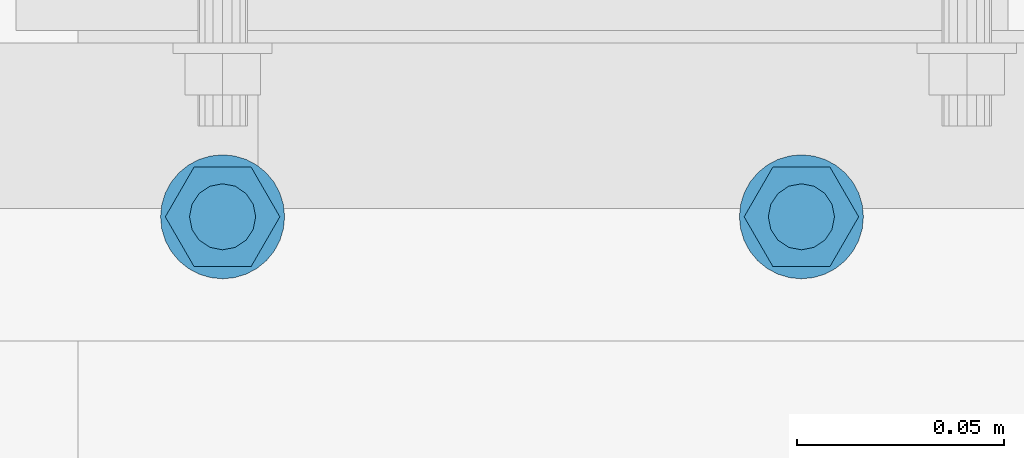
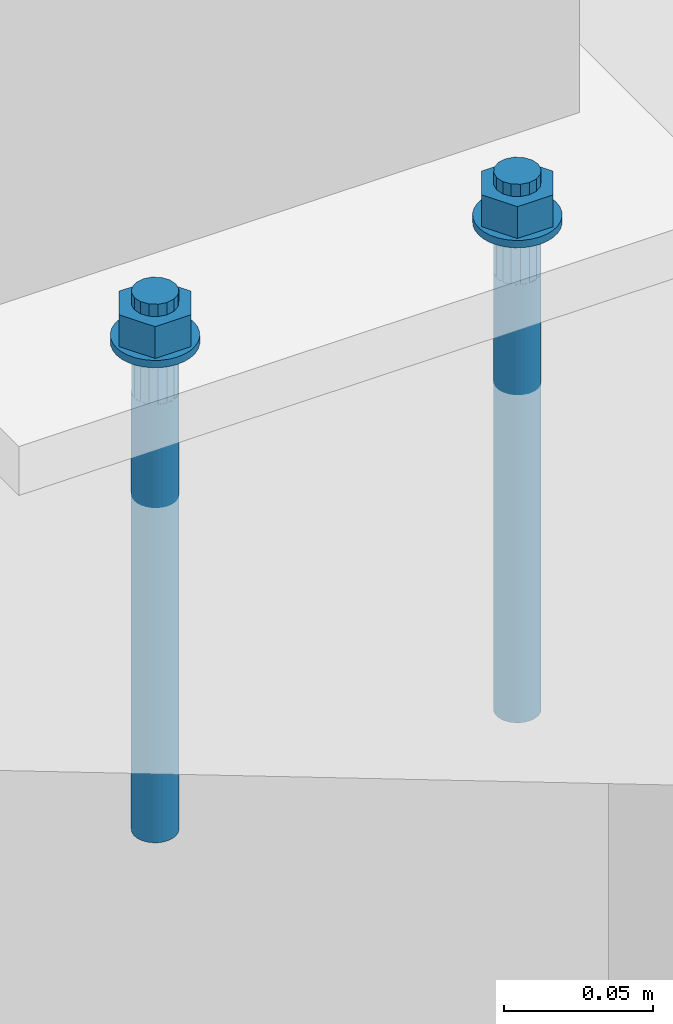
# One storey, part 387 of 825: 1 mechanical fastener.
"""IFC2X3 building model written with IfcOpenShell, lengths in millimetres."""

from ifc_helpers import new_model, entity, si_unit, converted_unit, origin_with_axes, place, context, project, spatial, faceted_brep, element, save


model = new_model("IFC2X3")

# Units and contexts
model_context = context("Model", 3, precision=1e-09, world=origin_with_axes())
ifc_project = project(units=[si_unit("LENGTHUNIT", "METRE", prefix="MILLI"), si_unit("AREAUNIT", "SQUARE_METRE"), si_unit("VOLUMEUNIT", "CUBIC_METRE"), converted_unit("PLANEANGLEUNIT", "DEGREE", entity("IfcPlaneAngleMeasure", 0.01745329), si_unit("PLANEANGLEUNIT", "RADIAN"), dimensions=[0, 0, 0, 0, 0, 0, 0])], contexts=[model_context])

# Site, building, storey
site_placement = place(None, origin_with_axes())
site = spatial("IfcSite", under=ifc_project, at=site_placement, Name="Cnopf'sche Kinderklinik", CompositionType="ELEMENT")
building_placement = place(site_placement, origin_with_axes())
building = spatial("IfcBuilding", under=site, at=building_placement, Name="Struktur 1", CompositionType="ELEMENT")
storey_placement = place(building_placement, origin_with_axes())
storey = spatial("IfcBuildingStorey", under=building, at=storey_placement, Name="Default Storey", CompositionType="ELEMENT", Elevation=0.0)

# Mechanical fastener
mechanical_fastener_placement = place(None, origin_with_axes())
element("IfcMechanicalFastener", 1, at=mechanical_fastener_placement, inside=storey, ObjectType="Anchor_Bolt", NominalDiameter=16.0, NominalLength=220.0, context=model_context, shape_type="Brep", body=[
    faceted_brep([(5271.713402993, 7246.736971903, 53.0), (5271.713402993, 7246.736971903, 50.0), (5274.639757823, 7247.025192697, 50.0), (5274.639757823, 7247.025192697, 53.0), (5277.453654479, 7247.878778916, 50.0), (5277.453654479, 7247.878778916, 53.0), (5280.046956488, 7249.264927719, 50.0), (5280.046956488, 7249.264927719, 53.0), (5282.320004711, 7251.130370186, 50.0), (5282.320004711, 7251.130370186, 53.0), (5284.185447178, 7253.403418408, 50.0), (5284.185447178, 7253.403418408, 53.0), (5285.571595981, 7255.996720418, 50.0), (5285.571595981, 7255.996720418, 53.0), (5286.425182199, 7258.810617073, 50.0), (5286.425182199, 7258.810617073, 53.0), (5286.713402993, 7261.736971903, 50.0), (5286.713402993, 7261.736971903, 53.0), (5286.425182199, 7264.663326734, 50.0), (5286.425182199, 7264.663326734, 53.0), (5285.571595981, 7267.477223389, 50.0), (5285.571595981, 7267.477223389, 53.0), (5284.185447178, 7270.070525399, 50.0), (5284.185447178, 7270.070525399, 53.0), (5282.320004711, 7272.343573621, 50.0), (5282.320004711, 7272.343573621, 53.0), (5280.046956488, 7274.209016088, 50.0), (5280.046956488, 7274.209016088, 53.0), (5277.453654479, 7275.595164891, 50.0), (5277.453654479, 7275.595164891, 53.0), (5274.639757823, 7276.448751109, 50.0), (5274.639757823, 7276.448751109, 53.0), (5271.713402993, 7276.736971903, 50.0), (5271.713402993, 7276.736971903, 53.0), (5268.787048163, 7276.448751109, 50.0), (5268.787048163, 7276.448751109, 53.0), (5265.973151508, 7275.595164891, 50.0), (5265.973151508, 7275.595164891, 53.0), (5263.379849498, 7274.209016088, 50.0), (5263.379849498, 7274.209016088, 53.0), (5261.106801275, 7272.343573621, 50.0), (5261.106801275, 7272.343573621, 53.0), (5259.241358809, 7270.070525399, 50.0), (5259.241358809, 7270.070525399, 53.0), (5257.855210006, 7267.477223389, 50.0), (5257.855210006, 7267.477223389, 53.0), (5257.001623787, 7264.663326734, 50.0), (5257.001623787, 7264.663326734, 53.0), (5256.713402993, 7261.736971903, 50.0), (5256.713402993, 7261.736971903, 53.0), (5257.001623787, 7258.810617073, 50.0), (5257.001623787, 7258.810617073, 53.0), (5257.855210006, 7255.996720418, 50.0), (5257.855210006, 7255.996720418, 53.0), (5259.241358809, 7253.403418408, 50.0), (5259.241358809, 7253.403418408, 53.0), (5261.106801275, 7251.130370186, 50.0), (5261.106801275, 7251.130370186, 53.0), (5263.379849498, 7249.264927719, 50.0), (5263.379849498, 7249.264927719, 53.0), (5265.973151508, 7247.878778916, 50.0), (5265.973151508, 7247.878778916, 53.0), (5268.787048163, 7247.025192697, 50.0), (5268.787048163, 7247.025192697, 53.0)], [[[0, 1, 2, 3]], [[3, 2, 4, 5]], [[5, 4, 6, 7]], [[7, 6, 8, 9]], [[9, 8, 10, 11]], [[11, 10, 12, 13]], [[13, 12, 14, 15]], [[15, 14, 16, 17]], [[17, 16, 18, 19]], [[19, 18, 20, 21]], [[21, 20, 22, 23]], [[23, 22, 24, 25]], [[25, 24, 26, 27]], [[27, 26, 28, 29]], [[29, 28, 30, 31]], [[31, 30, 32, 33]], [[33, 32, 34, 35]], [[35, 34, 36, 37]], [[37, 36, 38, 39]], [[39, 38, 40, 41]], [[41, 40, 42, 43]], [[43, 42, 44, 45]], [[45, 44, 46, 47]], [[47, 46, 48, 49]], [[49, 48, 50, 51]], [[51, 50, 52, 53]], [[53, 52, 54, 55]], [[55, 54, 56, 57]], [[57, 56, 58, 59]], [[59, 58, 60, 61]], [[61, 60, 62, 63]], [[63, 62, 1, 0]], [[0, 3, 5, 7, 9, 11, 13, 15, 17, 19, 21, 23, 25, 27, 29, 31, 33, 35, 37, 39, 41, 43, 45, 47, 49, 51, 53, 55, 57, 59, 61, 63]], [[1, 62, 60, 58, 56, 54, 52, 50, 48, 46, 44, 42, 40, 38, 36, 34, 32, 30, 28, 26, 24, 22, 20, 18, 16, 14, 12, 10, 8, 6, 4, 2]]]),
    faceted_brep([(5411.713402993, 7246.736971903, 53.0), (5411.713402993, 7246.736971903, 50.0), (5414.639757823, 7247.025192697, 50.0), (5414.639757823, 7247.025192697, 53.0), (5417.453654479, 7247.878778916, 50.0), (5417.453654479, 7247.878778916, 53.0), (5420.046956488, 7249.264927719, 50.0), (5420.046956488, 7249.264927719, 53.0), (5422.320004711, 7251.130370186, 50.0), (5422.320004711, 7251.130370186, 53.0), (5424.185447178, 7253.403418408, 50.0), (5424.185447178, 7253.403418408, 53.0), (5425.571595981, 7255.996720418, 50.0), (5425.571595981, 7255.996720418, 53.0), (5426.425182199, 7258.810617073, 50.0), (5426.425182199, 7258.810617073, 53.0), (5426.713402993, 7261.736971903, 50.0), (5426.713402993, 7261.736971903, 53.0), (5426.425182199, 7264.663326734, 50.0), (5426.425182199, 7264.663326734, 53.0), (5425.571595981, 7267.477223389, 50.0), (5425.571595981, 7267.477223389, 53.0), (5424.185447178, 7270.070525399, 50.0), (5424.185447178, 7270.070525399, 53.0), (5422.320004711, 7272.343573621, 50.0), (5422.320004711, 7272.343573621, 53.0), (5420.046956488, 7274.209016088, 50.0), (5420.046956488, 7274.209016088, 53.0), (5417.453654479, 7275.595164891, 50.0), (5417.453654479, 7275.595164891, 53.0), (5414.639757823, 7276.448751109, 50.0), (5414.639757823, 7276.448751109, 53.0), (5411.713402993, 7276.736971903, 50.0), (5411.713402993, 7276.736971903, 53.0), (5408.787048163, 7276.448751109, 50.0), (5408.787048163, 7276.448751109, 53.0), (5405.973151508, 7275.595164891, 50.0), (5405.973151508, 7275.595164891, 53.0), (5403.379849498, 7274.209016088, 50.0), (5403.379849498, 7274.209016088, 53.0), (5401.106801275, 7272.343573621, 50.0), (5401.106801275, 7272.343573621, 53.0), (5399.241358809, 7270.070525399, 50.0), (5399.241358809, 7270.070525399, 53.0), (5397.855210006, 7267.477223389, 50.0), (5397.855210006, 7267.477223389, 53.0), (5397.001623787, 7264.663326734, 50.0), (5397.001623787, 7264.663326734, 53.0), (5396.713402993, 7261.736971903, 50.0), (5396.713402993, 7261.736971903, 53.0), (5397.001623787, 7258.810617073, 50.0), (5397.001623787, 7258.810617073, 53.0), (5397.855210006, 7255.996720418, 50.0), (5397.855210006, 7255.996720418, 53.0), (5399.241358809, 7253.403418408, 50.0), (5399.241358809, 7253.403418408, 53.0), (5401.106801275, 7251.130370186, 50.0), (5401.106801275, 7251.130370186, 53.0), (5403.379849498, 7249.264927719, 50.0), (5403.379849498, 7249.264927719, 53.0), (5405.973151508, 7247.878778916, 50.0), (5405.973151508, 7247.878778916, 53.0), (5408.787048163, 7247.025192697, 50.0), (5408.787048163, 7247.025192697, 53.0)], [[[0, 1, 2, 3]], [[3, 2, 4, 5]], [[5, 4, 6, 7]], [[7, 6, 8, 9]], [[9, 8, 10, 11]], [[11, 10, 12, 13]], [[13, 12, 14, 15]], [[15, 14, 16, 17]], [[17, 16, 18, 19]], [[19, 18, 20, 21]], [[21, 20, 22, 23]], [[23, 22, 24, 25]], [[25, 24, 26, 27]], [[27, 26, 28, 29]], [[29, 28, 30, 31]], [[31, 30, 32, 33]], [[33, 32, 34, 35]], [[35, 34, 36, 37]], [[37, 36, 38, 39]], [[39, 38, 40, 41]], [[41, 40, 42, 43]], [[43, 42, 44, 45]], [[45, 44, 46, 47]], [[47, 46, 48, 49]], [[49, 48, 50, 51]], [[51, 50, 52, 53]], [[53, 52, 54, 55]], [[55, 54, 56, 57]], [[57, 56, 58, 59]], [[59, 58, 60, 61]], [[61, 60, 62, 63]], [[63, 62, 1, 0]], [[0, 3, 5, 7, 9, 11, 13, 15, 17, 19, 21, 23, 25, 27, 29, 31, 33, 35, 37, 39, 41, 43, 45, 47, 49, 51, 53, 55, 57, 59, 61, 63]], [[1, 62, 60, 58, 56, 54, 52, 50, 48, 46, 44, 42, 40, 38, 36, 34, 32, 30, 28, 26, 24, 22, 20, 18, 16, 14, 12, 10, 8, 6, 4, 2]]]),
    faceted_brep([(5278.638402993, 7273.731423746, 53.0), (5278.638402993, 7273.731423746, 66.0), (5285.563402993, 7261.736971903, 66.0), (5285.563402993, 7261.736971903, 53.0), (5278.638402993, 7249.742520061, 66.0), (5278.638402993, 7249.742520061, 53.0), (5264.788402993, 7249.742520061, 66.0), (5264.788402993, 7249.742520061, 53.0), (5257.863402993, 7261.736971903, 66.0), (5257.863402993, 7261.736971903, 53.0), (5264.788402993, 7273.731423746, 66.0), (5264.788402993, 7273.731423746, 53.0)], [[[0, 1, 2, 3]], [[3, 2, 4, 5]], [[5, 4, 6, 7]], [[7, 6, 8, 9]], [[9, 8, 10, 11]], [[11, 10, 1, 0]], [[4, 2, 1, 10, 8, 6]], [[0, 3, 5, 7, 9, 11]]]),
    faceted_brep([(5418.638402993, 7273.731423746, 53.0), (5418.638402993, 7273.731423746, 66.0), (5425.563402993, 7261.736971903, 66.0), (5425.563402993, 7261.736971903, 53.0), (5418.638402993, 7249.742520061, 66.0), (5418.638402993, 7249.742520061, 53.0), (5404.788402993, 7249.742520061, 66.0), (5404.788402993, 7249.742520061, 53.0), (5397.863402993, 7261.736971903, 66.0), (5397.863402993, 7261.736971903, 53.0), (5404.788402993, 7273.731423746, 66.0), (5404.788402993, 7273.731423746, 53.0)], [[[0, 1, 2, 3]], [[3, 2, 4, 5]], [[5, 4, 6, 7]], [[7, 6, 8, 9]], [[9, 8, 10, 11]], [[11, 10, 1, 0]], [[4, 2, 1, 10, 8, 6]], [[0, 3, 5, 7, 9, 11]]]),
    faceted_brep([(5271.713402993, 7253.736971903, 71.0), (5271.713402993, 7253.736971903, 66.0), (5274.774870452, 7254.345935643, 66.0), (5274.774870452, 7254.345935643, 71.0), (5277.370257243, 7256.080117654, 66.0), (5277.370257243, 7256.080117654, 71.0), (5279.104439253, 7258.675504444, 66.0), (5279.104439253, 7258.675504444, 71.0), (5279.713402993, 7261.736971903, 66.0), (5279.713402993, 7261.736971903, 71.0), (5279.104439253, 7264.798439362, 66.0), (5279.104439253, 7264.798439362, 71.0), (5277.370257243, 7267.393826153, 66.0), (5277.370257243, 7267.393826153, 71.0), (5274.774870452, 7269.128008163, 66.0), (5274.774870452, 7269.128008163, 71.0), (5271.713402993, 7269.736971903, 66.0), (5271.713402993, 7269.736971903, 71.0), (5268.651935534, 7269.128008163, 66.0), (5268.651935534, 7269.128008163, 71.0), (5266.056548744, 7267.393826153, 66.0), (5266.056548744, 7267.393826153, 71.0), (5264.322366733, 7264.798439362, 66.0), (5264.322366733, 7264.798439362, 71.0), (5263.713402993, 7261.736971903, 66.0), (5263.713402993, 7261.736971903, 71.0), (5264.322366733, 7258.675504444, 66.0), (5264.322366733, 7258.675504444, 71.0), (5266.056548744, 7256.080117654, 66.0), (5266.056548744, 7256.080117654, 71.0), (5268.651935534, 7254.345935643, 66.0), (5268.651935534, 7254.345935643, 71.0)], [[[0, 1, 2, 3]], [[3, 2, 4, 5]], [[5, 4, 6, 7]], [[7, 6, 8, 9]], [[9, 8, 10, 11]], [[11, 10, 12, 13]], [[13, 12, 14, 15]], [[15, 14, 16, 17]], [[17, 16, 18, 19]], [[19, 18, 20, 21]], [[21, 20, 22, 23]], [[23, 22, 24, 25]], [[25, 24, 26, 27]], [[27, 26, 28, 29]], [[29, 28, 30, 31]], [[31, 30, 1, 0]], [[0, 3, 5, 7, 9, 11, 13, 15, 17, 19, 21, 23, 25, 27, 29, 31]], [[1, 30, 28, 26, 24, 22, 20, 18, 16, 14, 12, 10, 8, 6, 4, 2]]]),
    faceted_brep([(5411.713402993, 7253.736971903, 71.0), (5411.713402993, 7253.736971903, 66.0), (5414.774870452, 7254.345935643, 66.0), (5414.774870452, 7254.345935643, 71.0), (5417.370257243, 7256.080117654, 66.0), (5417.370257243, 7256.080117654, 71.0), (5419.104439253, 7258.675504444, 66.0), (5419.104439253, 7258.675504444, 71.0), (5419.713402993, 7261.736971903, 66.0), (5419.713402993, 7261.736971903, 71.0), (5419.104439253, 7264.798439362, 66.0), (5419.104439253, 7264.798439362, 71.0), (5417.370257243, 7267.393826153, 66.0), (5417.370257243, 7267.393826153, 71.0), (5414.774870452, 7269.128008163, 66.0), (5414.774870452, 7269.128008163, 71.0), (5411.713402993, 7269.736971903, 66.0), (5411.713402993, 7269.736971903, 71.0), (5408.651935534, 7269.128008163, 66.0), (5408.651935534, 7269.128008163, 71.0), (5406.056548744, 7267.393826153, 66.0), (5406.056548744, 7267.393826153, 71.0), (5404.322366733, 7264.798439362, 66.0), (5404.322366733, 7264.798439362, 71.0), (5403.713402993, 7261.736971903, 66.0), (5403.713402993, 7261.736971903, 71.0), (5404.322366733, 7258.675504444, 66.0), (5404.322366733, 7258.675504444, 71.0), (5406.056548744, 7256.080117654, 66.0), (5406.056548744, 7256.080117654, 71.0), (5408.651935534, 7254.345935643, 66.0), (5408.651935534, 7254.345935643, 71.0)], [[[0, 1, 2, 3]], [[3, 2, 4, 5]], [[5, 4, 6, 7]], [[7, 6, 8, 9]], [[9, 8, 10, 11]], [[11, 10, 12, 13]], [[13, 12, 14, 15]], [[15, 14, 16, 17]], [[17, 16, 18, 19]], [[19, 18, 20, 21]], [[21, 20, 22, 23]], [[23, 22, 24, 25]], [[25, 24, 26, 27]], [[27, 26, 28, 29]], [[29, 28, 30, 31]], [[31, 30, 1, 0]], [[0, 3, 5, 7, 9, 11, 13, 15, 17, 19, 21, 23, 25, 27, 29, 31]], [[1, 30, 28, 26, 24, 22, 20, 18, 16, 14, 12, 10, 8, 6, 4, 2]]]),
    faceted_brep([(5271.713402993, 7253.736971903, 50.0), (5271.713402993, 7253.736971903, 30.0), (5274.774870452, 7254.345935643, 30.0), (5274.774870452, 7254.345935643, 50.0), (5277.370257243, 7256.080117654, 30.0), (5277.370257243, 7256.080117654, 50.0), (5279.104439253, 7258.675504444, 30.0), (5279.104439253, 7258.675504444, 50.0), (5279.713402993, 7261.736971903, 30.0), (5279.713402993, 7261.736971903, 50.0), (5279.104439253, 7264.798439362, 30.0), (5279.104439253, 7264.798439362, 50.0), (5277.370257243, 7267.393826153, 30.0), (5277.370257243, 7267.393826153, 50.0), (5274.774870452, 7269.128008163, 30.0), (5274.774870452, 7269.128008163, 50.0), (5271.713402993, 7269.736971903, 30.0), (5271.713402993, 7269.736971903, 50.0), (5268.651935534, 7269.128008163, 30.0), (5268.651935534, 7269.128008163, 50.0), (5266.056548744, 7267.393826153, 30.0), (5266.056548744, 7267.393826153, 50.0), (5264.322366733, 7264.798439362, 30.0), (5264.322366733, 7264.798439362, 50.0), (5263.713402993, 7261.736971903, 30.0), (5263.713402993, 7261.736971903, 50.0), (5264.322366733, 7258.675504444, 30.0), (5264.322366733, 7258.675504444, 50.0), (5266.056548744, 7256.080117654, 30.0), (5266.056548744, 7256.080117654, 50.0), (5268.651935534, 7254.345935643, 30.0), (5268.651935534, 7254.345935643, 50.0)], [[[0, 1, 2, 3]], [[3, 2, 4, 5]], [[5, 4, 6, 7]], [[7, 6, 8, 9]], [[9, 8, 10, 11]], [[11, 10, 12, 13]], [[13, 12, 14, 15]], [[15, 14, 16, 17]], [[17, 16, 18, 19]], [[19, 18, 20, 21]], [[21, 20, 22, 23]], [[23, 22, 24, 25]], [[25, 24, 26, 27]], [[27, 26, 28, 29]], [[29, 28, 30, 31]], [[31, 30, 1, 0]], [[0, 3, 5, 7, 9, 11, 13, 15, 17, 19, 21, 23, 25, 27, 29, 31]], [[1, 30, 28, 26, 24, 22, 20, 18, 16, 14, 12, 10, 8, 6, 4, 2]]]),
    faceted_brep([(5411.713402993, 7253.736971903, 50.0), (5411.713402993, 7253.736971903, 30.0), (5414.774870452, 7254.345935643, 30.0), (5414.774870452, 7254.345935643, 50.0), (5417.370257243, 7256.080117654, 30.0), (5417.370257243, 7256.080117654, 50.0), (5419.104439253, 7258.675504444, 30.0), (5419.104439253, 7258.675504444, 50.0), (5419.713402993, 7261.736971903, 30.0), (5419.713402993, 7261.736971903, 50.0), (5419.104439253, 7264.798439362, 30.0), (5419.104439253, 7264.798439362, 50.0), (5417.370257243, 7267.393826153, 30.0), (5417.370257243, 7267.393826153, 50.0), (5414.774870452, 7269.128008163, 30.0), (5414.774870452, 7269.128008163, 50.0), (5411.713402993, 7269.736971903, 30.0), (5411.713402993, 7269.736971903, 50.0), (5408.651935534, 7269.128008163, 30.0), (5408.651935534, 7269.128008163, 50.0), (5406.056548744, 7267.393826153, 30.0), (5406.056548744, 7267.393826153, 50.0), (5404.322366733, 7264.798439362, 30.0), (5404.322366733, 7264.798439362, 50.0), (5403.713402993, 7261.736971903, 30.0), (5403.713402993, 7261.736971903, 50.0), (5404.322366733, 7258.675504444, 30.0), (5404.322366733, 7258.675504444, 50.0), (5406.056548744, 7256.080117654, 30.0), (5406.056548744, 7256.080117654, 50.0), (5408.651935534, 7254.345935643, 30.0), (5408.651935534, 7254.345935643, 50.0)], [[[0, 1, 2, 3]], [[3, 2, 4, 5]], [[5, 4, 6, 7]], [[7, 6, 8, 9]], [[9, 8, 10, 11]], [[11, 10, 12, 13]], [[13, 12, 14, 15]], [[15, 14, 16, 17]], [[17, 16, 18, 19]], [[19, 18, 20, 21]], [[21, 20, 22, 23]], [[23, 22, 24, 25]], [[25, 24, 26, 27]], [[27, 26, 28, 29]], [[29, 28, 30, 31]], [[31, 30, 1, 0]], [[0, 3, 5, 7, 9, 11, 13, 15, 17, 19, 21, 23, 25, 27, 29, 31]], [[1, 30, 28, 26, 24, 22, 20, 18, 16, 14, 12, 10, 8, 6, 4, 2]]]),
    faceted_brep([(5271.713402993, 7253.736971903, 30.0), (5271.713402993, 7253.736971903, -149.0), (5273.274125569, 7253.89068966, -149.0), (5273.274125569, 7253.89068966, 30.0), (5274.774870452, 7254.345935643, -149.0), (5274.774870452, 7254.345935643, 30.0), (5276.157964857, 7255.085215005, -149.0), (5276.157964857, 7255.085215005, 30.0), (5277.370257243, 7256.080117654, -149.0), (5277.370257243, 7256.080117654, 30.0), (5278.365159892, 7257.292410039, -149.0), (5278.365159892, 7257.292410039, 30.0), (5279.104439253, 7258.675504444, -149.0), (5279.104439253, 7258.675504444, 30.0), (5279.559685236, 7260.176249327, -149.0), (5279.559685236, 7260.176249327, 30.0), (5279.713402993, 7261.736971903, -149.0), (5279.713402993, 7261.736971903, 30.0), (5279.559685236, 7263.297694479, -149.0), (5279.559685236, 7263.297694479, 30.0), (5279.104439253, 7264.798439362, -149.0), (5279.104439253, 7264.798439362, 30.0), (5278.365159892, 7266.181533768, -149.0), (5278.365159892, 7266.181533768, 30.0), (5277.370257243, 7267.393826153, -149.0), (5277.370257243, 7267.393826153, 30.0), (5276.157964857, 7268.388728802, -149.0), (5276.157964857, 7268.388728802, 30.0), (5274.774870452, 7269.128008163, -149.0), (5274.774870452, 7269.128008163, 30.0), (5273.274125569, 7269.583254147, -149.0), (5273.274125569, 7269.583254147, 30.0), (5271.713402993, 7269.736971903, -149.0), (5271.713402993, 7269.736971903, 30.0), (5270.152680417, 7269.583254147, -149.0), (5270.152680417, 7269.583254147, 30.0), (5268.651935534, 7269.128008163, -149.0), (5268.651935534, 7269.128008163, 30.0), (5267.268841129, 7268.388728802, -149.0), (5267.268841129, 7268.388728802, 30.0), (5266.056548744, 7267.393826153, -149.0), (5266.056548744, 7267.393826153, 30.0), (5265.061646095, 7266.181533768, -149.0), (5265.061646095, 7266.181533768, 30.0), (5264.322366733, 7264.798439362, -149.0), (5264.322366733, 7264.798439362, 30.0), (5263.86712075, 7263.297694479, -149.0), (5263.86712075, 7263.297694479, 30.0), (5263.713402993, 7261.736971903, -149.0), (5263.713402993, 7261.736971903, 30.0), (5263.86712075, 7260.176249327, -149.0), (5263.86712075, 7260.176249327, 30.0), (5264.322366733, 7258.675504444, -149.0), (5264.322366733, 7258.675504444, 30.0), (5265.061646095, 7257.292410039, -149.0), (5265.061646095, 7257.292410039, 30.0), (5266.056548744, 7256.080117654, -149.0), (5266.056548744, 7256.080117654, 30.0), (5267.268841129, 7255.085215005, -149.0), (5267.268841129, 7255.085215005, 30.0), (5268.651935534, 7254.345935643, -149.0), (5268.651935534, 7254.345935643, 30.0), (5270.152680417, 7253.89068966, -149.0), (5270.152680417, 7253.89068966, 30.0)], [[[0, 1, 2, 3]], [[3, 2, 4, 5]], [[5, 4, 6, 7]], [[7, 6, 8, 9]], [[9, 8, 10, 11]], [[11, 10, 12, 13]], [[13, 12, 14, 15]], [[15, 14, 16, 17]], [[17, 16, 18, 19]], [[19, 18, 20, 21]], [[21, 20, 22, 23]], [[23, 22, 24, 25]], [[25, 24, 26, 27]], [[27, 26, 28, 29]], [[29, 28, 30, 31]], [[31, 30, 32, 33]], [[33, 32, 34, 35]], [[35, 34, 36, 37]], [[37, 36, 38, 39]], [[39, 38, 40, 41]], [[41, 40, 42, 43]], [[43, 42, 44, 45]], [[45, 44, 46, 47]], [[47, 46, 48, 49]], [[49, 48, 50, 51]], [[51, 50, 52, 53]], [[53, 52, 54, 55]], [[55, 54, 56, 57]], [[57, 56, 58, 59]], [[59, 58, 60, 61]], [[61, 60, 62, 63]], [[63, 62, 1, 0]], [[0, 3, 5, 7, 9, 11, 13, 15, 17, 19, 21, 23, 25, 27, 29, 31, 33, 35, 37, 39, 41, 43, 45, 47, 49, 51, 53, 55, 57, 59, 61, 63]], [[1, 62, 60, 58, 56, 54, 52, 50, 48, 46, 44, 42, 40, 38, 36, 34, 32, 30, 28, 26, 24, 22, 20, 18, 16, 14, 12, 10, 8, 6, 4, 2]]]),
    faceted_brep([(5411.713402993, 7253.736971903, 30.0), (5411.713402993, 7253.736971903, -149.0), (5413.274125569, 7253.89068966, -149.0), (5413.274125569, 7253.89068966, 30.0), (5414.774870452, 7254.345935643, -149.0), (5414.774870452, 7254.345935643, 30.0), (5416.157964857, 7255.085215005, -149.0), (5416.157964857, 7255.085215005, 30.0), (5417.370257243, 7256.080117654, -149.0), (5417.370257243, 7256.080117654, 30.0), (5418.365159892, 7257.292410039, -149.0), (5418.365159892, 7257.292410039, 30.0), (5419.104439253, 7258.675504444, -149.0), (5419.104439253, 7258.675504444, 30.0), (5419.559685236, 7260.176249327, -149.0), (5419.559685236, 7260.176249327, 30.0), (5419.713402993, 7261.736971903, -149.0), (5419.713402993, 7261.736971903, 30.0), (5419.559685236, 7263.297694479, -149.0), (5419.559685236, 7263.297694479, 30.0), (5419.104439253, 7264.798439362, -149.0), (5419.104439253, 7264.798439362, 30.0), (5418.365159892, 7266.181533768, -149.0), (5418.365159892, 7266.181533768, 30.0), (5417.370257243, 7267.393826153, -149.0), (5417.370257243, 7267.393826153, 30.0), (5416.157964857, 7268.388728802, -149.0), (5416.157964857, 7268.388728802, 30.0), (5414.774870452, 7269.128008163, -149.0), (5414.774870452, 7269.128008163, 30.0), (5413.274125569, 7269.583254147, -149.0), (5413.274125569, 7269.583254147, 30.0), (5411.713402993, 7269.736971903, -149.0), (5411.713402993, 7269.736971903, 30.0), (5410.152680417, 7269.583254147, -149.0), (5410.152680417, 7269.583254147, 30.0), (5408.651935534, 7269.128008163, -149.0), (5408.651935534, 7269.128008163, 30.0), (5407.268841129, 7268.388728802, -149.0), (5407.268841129, 7268.388728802, 30.0), (5406.056548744, 7267.393826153, -149.0), (5406.056548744, 7267.393826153, 30.0), (5405.061646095, 7266.181533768, -149.0), (5405.061646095, 7266.181533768, 30.0), (5404.322366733, 7264.798439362, -149.0), (5404.322366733, 7264.798439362, 30.0), (5403.86712075, 7263.297694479, -149.0), (5403.86712075, 7263.297694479, 30.0), (5403.713402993, 7261.736971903, -149.0), (5403.713402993, 7261.736971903, 30.0), (5403.86712075, 7260.176249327, -149.0), (5403.86712075, 7260.176249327, 30.0), (5404.322366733, 7258.675504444, -149.0), (5404.322366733, 7258.675504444, 30.0), (5405.061646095, 7257.292410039, -149.0), (5405.061646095, 7257.292410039, 30.0), (5406.056548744, 7256.080117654, -149.0), (5406.056548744, 7256.080117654, 30.0), (5407.268841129, 7255.085215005, -149.0), (5407.268841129, 7255.085215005, 30.0), (5408.651935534, 7254.345935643, -149.0), (5408.651935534, 7254.345935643, 30.0), (5410.152680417, 7253.89068966, -149.0), (5410.152680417, 7253.89068966, 30.0)], [[[0, 1, 2, 3]], [[3, 2, 4, 5]], [[5, 4, 6, 7]], [[7, 6, 8, 9]], [[9, 8, 10, 11]], [[11, 10, 12, 13]], [[13, 12, 14, 15]], [[15, 14, 16, 17]], [[17, 16, 18, 19]], [[19, 18, 20, 21]], [[21, 20, 22, 23]], [[23, 22, 24, 25]], [[25, 24, 26, 27]], [[27, 26, 28, 29]], [[29, 28, 30, 31]], [[31, 30, 32, 33]], [[33, 32, 34, 35]], [[35, 34, 36, 37]], [[37, 36, 38, 39]], [[39, 38, 40, 41]], [[41, 40, 42, 43]], [[43, 42, 44, 45]], [[45, 44, 46, 47]], [[47, 46, 48, 49]], [[49, 48, 50, 51]], [[51, 50, 52, 53]], [[53, 52, 54, 55]], [[55, 54, 56, 57]], [[57, 56, 58, 59]], [[59, 58, 60, 61]], [[61, 60, 62, 63]], [[63, 62, 1, 0]], [[0, 3, 5, 7, 9, 11, 13, 15, 17, 19, 21, 23, 25, 27, 29, 31, 33, 35, 37, 39, 41, 43, 45, 47, 49, 51, 53, 55, 57, 59, 61, 63]], [[1, 62, 60, 58, 56, 54, 52, 50, 48, 46, 44, 42, 40, 38, 36, 34, 32, 30, 28, 26, 24, 22, 20, 18, 16, 14, 12, 10, 8, 6, 4, 2]]]),
])

save(model, "model.ifc")
